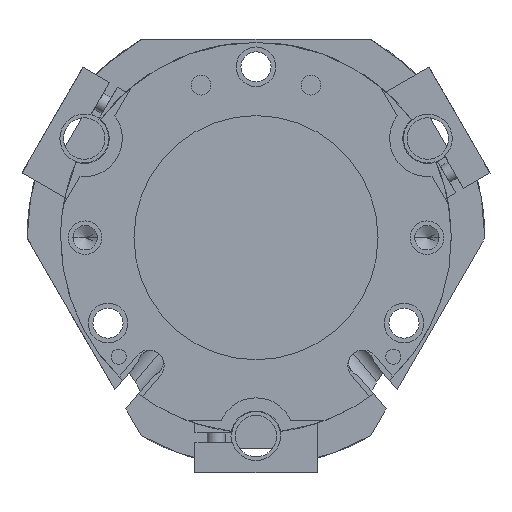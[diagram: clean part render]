
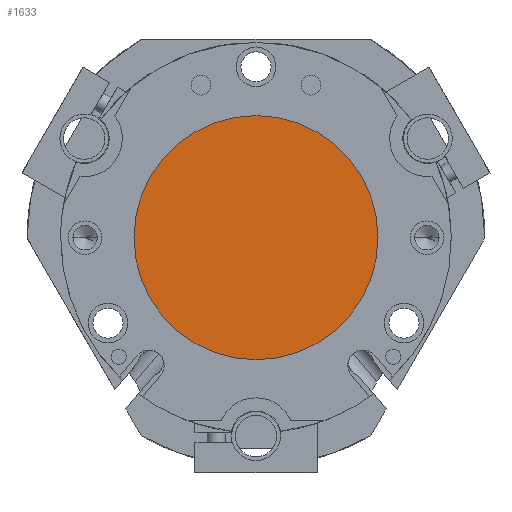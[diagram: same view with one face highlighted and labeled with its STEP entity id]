
A CAD part, front view. The second image highlights one B-rep face of the part: STEP entity #1633.
In plain terms, the highlighted planar face has unit normal (0, -1, 0) as drawn and (0, 1, 0) by its records, which use the part's own axes.
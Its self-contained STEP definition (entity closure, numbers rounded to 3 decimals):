
#261 = EDGE_LOOP ( 'NONE', ( #7623, #10787 ) ) ;
#425 = CARTESIAN_POINT ( 'NONE',  ( 0., 3.8, 0. ) ) ;
#548 = DIRECTION ( 'NONE',  ( 0., 1., 0. ) ) ;
#605 = AXIS2_PLACEMENT_3D ( 'NONE', #5614, #548, #9898 ) ;
#1451 = DIRECTION ( 'NONE',  ( 1., 0., 0. ) ) ;
#1633 = ADVANCED_FACE ( 'NONE', ( #3670 ), #9801, .T. ) ;
#1862 = DIRECTION ( 'NONE',  ( 0., 1., 0. ) ) ;
#1933 = AXIS2_PLACEMENT_3D ( 'NONE', #425, #10738, #1451 ) ;
#3670 = FACE_OUTER_BOUND ( 'NONE', #261, .T. ) ;
#4015 = VERTEX_POINT ( 'NONE', #4666 ) ;
#4666 = CARTESIAN_POINT ( 'NONE',  ( 0., 3.8, 20. ) ) ;
#5614 = CARTESIAN_POINT ( 'NONE',  ( 0., 3.8, 0. ) ) ;
#6999 = CIRCLE ( 'NONE', #8656, 20. ) ;
#7623 = ORIENTED_EDGE ( 'NONE', *, *, #10986, .T. ) ;
#8127 = CARTESIAN_POINT ( 'NONE',  ( 0., 3.8, 0. ) ) ;
#8149 = CIRCLE ( 'NONE', #1933, 20. ) ;
#8656 = AXIS2_PLACEMENT_3D ( 'NONE', #8127, #1862, #9161 ) ;
#9161 = DIRECTION ( 'NONE',  ( 1., 0., 0. ) ) ;
#9176 = VERTEX_POINT ( 'NONE', #13410 ) ;
#9801 = PLANE ( 'NONE',  #605 ) ;
#9898 = DIRECTION ( 'NONE',  ( 0., 0., 1. ) ) ;
#10738 = DIRECTION ( 'NONE',  ( 0., 1., 0. ) ) ;
#10787 = ORIENTED_EDGE ( 'NONE', *, *, #11920, .T. ) ;
#10986 = EDGE_CURVE ( 'NONE', #9176, #4015, #6999, .T. ) ;
#11920 = EDGE_CURVE ( 'NONE', #4015, #9176, #8149, .T. ) ;
#13410 = CARTESIAN_POINT ( 'NONE',  ( 0., 3.8, -20. ) ) ;
